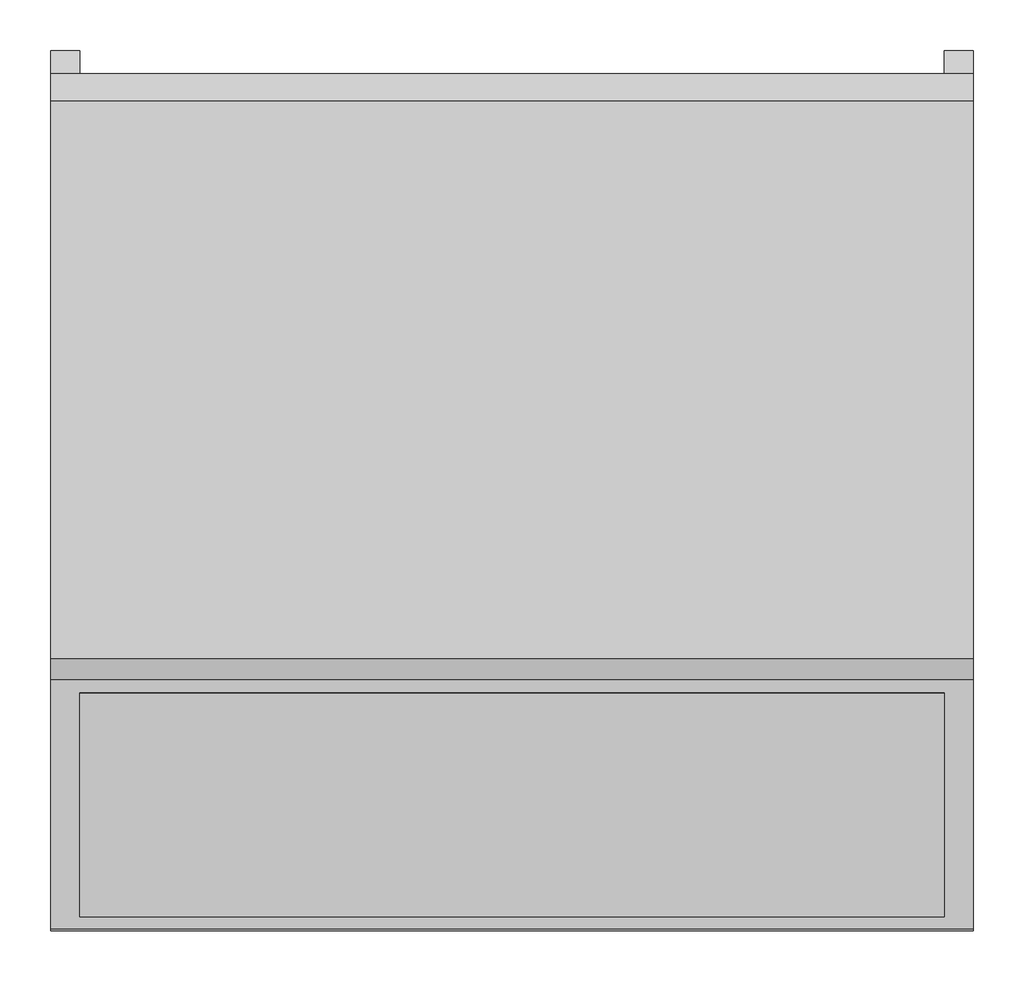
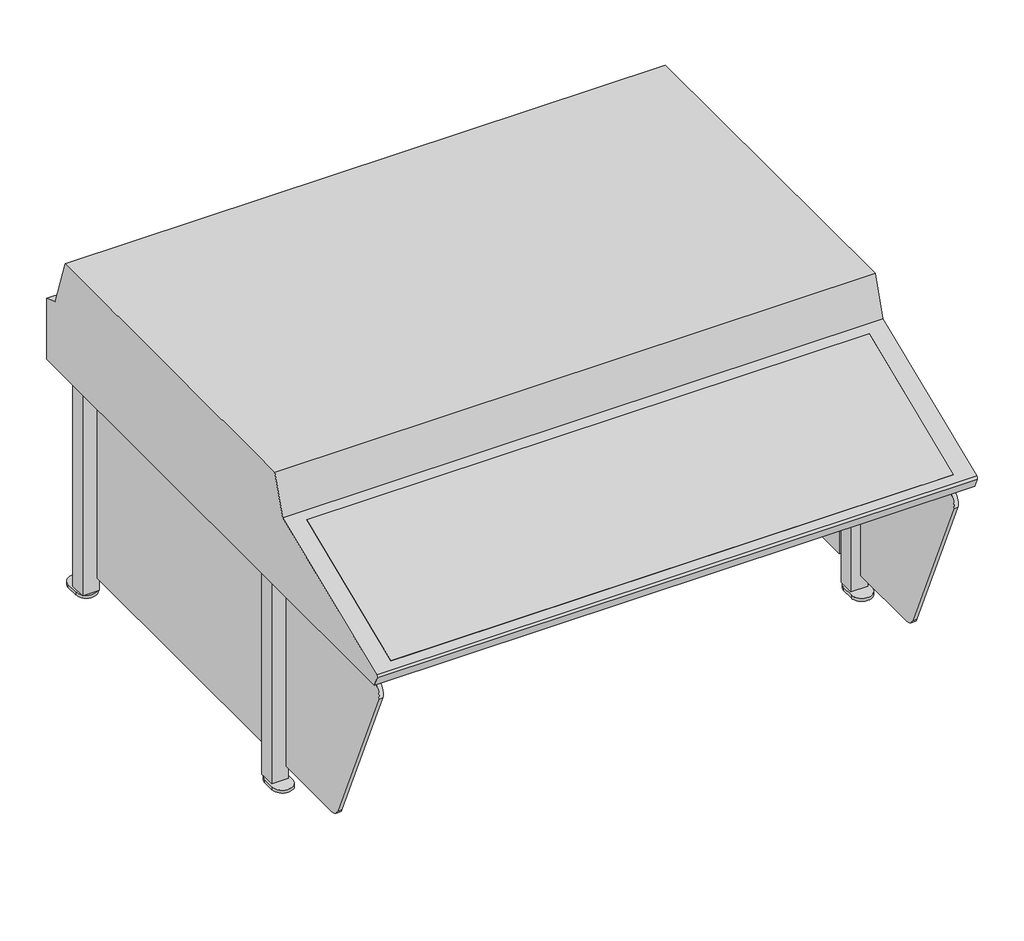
# One storey: 1 proxy.
"""IFC4 building model written with IfcOpenShell, lengths in millimetres."""

from ifc_helpers import new_model, si_unit, origin, place, context, project, spatial, transform, mapped, element, save
from components import qf_atlasmetal_osc_cat_qf_atlasmetal_osc_cat_4fe1f685

model = new_model("IFC4")

# Units and contexts
model_context = context("Model", 3, world=origin())
ifc_project = project(units=[si_unit("LENGTHUNIT", "METRE", prefix="MILLI")], contexts=[model_context])

# Site, building, storey
site = spatial("IfcSite", under=ifc_project)
building = spatial("IfcBuilding", under=site)
storey = spatial("IfcBuildingStorey", under=building, Name="Level 02 - T.O. Footing", Elevation=-2743.2)

# Proxy
placement = place(None, origin())
qf_atlasmetal_osc_cat_qf_atlasmetal_osc_cat_shape = qf_atlasmetal_osc_cat_qf_atlasmetal_osc_cat_4fe1f685(model_context)
element("IfcBuildingElementProxy", 1, Name="QF_AtlasMetal_OSC_cat : QF_AtlasMetal_OSC_cat", ObjectType="QF_AtlasMetal_OSC_cat : QF_AtlasMetal_OSC_cat", at=placement, inside=storey, context=model_context, shape_type="MappedRepresentation", body=[
    mapped(qf_atlasmetal_osc_cat_qf_atlasmetal_osc_cat_shape, transform((7856.5413608, 8435.4883577, -2743.2), x_axis=(1.0, 0.0, 0.0), y_axis=(0.0, 1.0, 0.0), z_axis=(0.0, 0.0, 1.0))),
])

save(model, "model.ifc")
